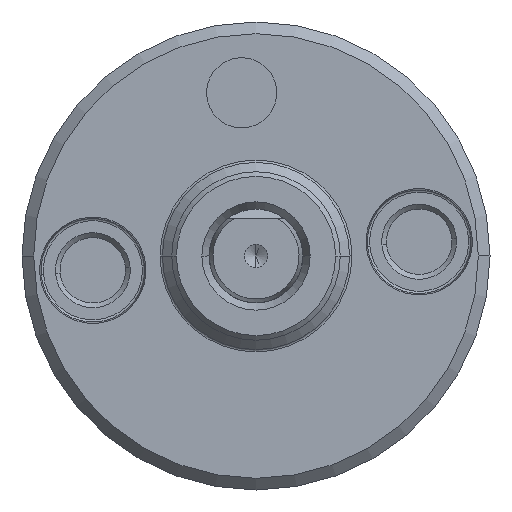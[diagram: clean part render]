
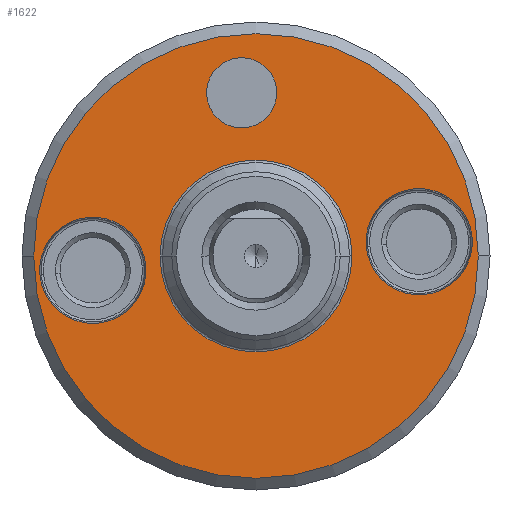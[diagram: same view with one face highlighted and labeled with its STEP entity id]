
A CAD part, left-side view. The second image highlights one B-rep face of the part: STEP entity #1622.
In plain terms, the highlighted planar face has unit normal (-1, 0, 0).
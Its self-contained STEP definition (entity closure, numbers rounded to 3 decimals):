
#109=CARTESIAN_POINT('',(0.,0.,0.));
#110=DIRECTION('',(-1.,0.,0.));
#111=DIRECTION('',(0.,1.,0.));
#112=AXIS2_PLACEMENT_3D('',#109,#110,#111);
#117=CARTESIAN_POINT('',(0.,0.,0.));
#118=DIRECTION('',(-1.,0.,0.));
#119=DIRECTION('',(0.,-1.,0.));
#120=AXIS2_PLACEMENT_3D('',#117,#118,#119);
#125=CARTESIAN_POINT('',(0.,3.487,-0.305));
#126=DIRECTION('',(1.,0.,0.));
#127=DIRECTION('',(0.,0.996,-0.087));
#128=AXIS2_PLACEMENT_3D('',#125,#126,#127);
#133=CARTESIAN_POINT('',(0.,3.487,-0.305));
#134=DIRECTION('',(1.,0.,0.));
#135=DIRECTION('',(0.,-0.996,0.087));
#136=AXIS2_PLACEMENT_3D('',#133,#134,#135);
#141=CARTESIAN_POINT('',(0.,-3.487,0.305));
#142=DIRECTION('',(1.,0.,0.));
#143=DIRECTION('',(0.,-0.996,0.087));
#144=AXIS2_PLACEMENT_3D('',#141,#142,#143);
#149=CARTESIAN_POINT('',(0.,-3.487,0.305));
#150=DIRECTION('',(1.,0.,0.));
#151=DIRECTION('',(0.,0.996,-0.087));
#152=AXIS2_PLACEMENT_3D('',#149,#150,#151);
#157=CARTESIAN_POINT('',(0.,0.305,3.487));
#158=DIRECTION('',(1.,0.,0.));
#159=DIRECTION('',(0.,0.087,0.996));
#160=AXIS2_PLACEMENT_3D('',#157,#158,#159);
#165=CARTESIAN_POINT('',(0.,0.305,3.487));
#166=DIRECTION('',(1.,0.,0.));
#167=DIRECTION('',(0.,-0.087,-0.996));
#168=AXIS2_PLACEMENT_3D('',#165,#166,#167);
#173=CARTESIAN_POINT('',(0.,0.,0.));
#174=DIRECTION('',(1.,0.,0.));
#175=DIRECTION('',(0.,-1.,0.));
#176=AXIS2_PLACEMENT_3D('',#173,#174,#175);
#181=CARTESIAN_POINT('',(0.,0.,0.));
#182=DIRECTION('',(1.,0.,0.));
#183=DIRECTION('',(0.,1.,0.));
#184=AXIS2_PLACEMENT_3D('',#181,#182,#183);
#1349=CARTESIAN_POINT('',(0.,4.75,0.));
#1350=CARTESIAN_POINT('',(0.,-4.75,0.));
#1351=VERTEX_POINT('',#1349);
#1352=VERTEX_POINT('',#1350);
#1361=CARTESIAN_POINT('',(0.,-2.05,0.));
#1362=CARTESIAN_POINT('',(0.,2.05,0.));
#1363=VERTEX_POINT('',#1361);
#1364=VERTEX_POINT('',#1362);
#1377=CARTESIAN_POINT('',(0.,4.618,-0.404));
#1378=CARTESIAN_POINT('',(0.,2.356,-0.206));
#1379=VERTEX_POINT('',#1377);
#1380=VERTEX_POINT('',#1378);
#1385=CARTESIAN_POINT('',(0.,-4.618,0.404));
#1386=CARTESIAN_POINT('',(0.,-2.356,0.206));
#1387=VERTEX_POINT('',#1385);
#1388=VERTEX_POINT('',#1386);
#1393=CARTESIAN_POINT('',(0.,0.37,4.234));
#1394=CARTESIAN_POINT('',(0.,0.24,2.74));
#1395=VERTEX_POINT('',#1393);
#1396=VERTEX_POINT('',#1394);
#1588=CARTESIAN_POINT('',(0.,0.,0.));
#1589=DIRECTION('',(-1.,0.,0.));
#1590=DIRECTION('',(0.,1.,0.));
#1591=AXIS2_PLACEMENT_3D('',#1588,#1589,#1590);
#1592=PLANE('',#1591);
#1593=ORIENTED_EDGE('',*,*,#1578,.F.);
#1595=ORIENTED_EDGE('',*,*,#1594,.F.);
#1596=EDGE_LOOP('',(#1593,#1595));
#1597=FACE_OUTER_BOUND('',#1596,.F.);
#1599=ORIENTED_EDGE('',*,*,#1598,.F.);
#1601=ORIENTED_EDGE('',*,*,#1600,.F.);
#1602=EDGE_LOOP('',(#1599,#1601));
#1603=FACE_BOUND('',#1602,.F.);
#1605=ORIENTED_EDGE('',*,*,#1604,.F.);
#1607=ORIENTED_EDGE('',*,*,#1606,.F.);
#1608=EDGE_LOOP('',(#1605,#1607));
#1609=FACE_BOUND('',#1608,.F.);
#1611=ORIENTED_EDGE('',*,*,#1610,.F.);
#1613=ORIENTED_EDGE('',*,*,#1612,.F.);
#1614=EDGE_LOOP('',(#1611,#1613));
#1615=FACE_BOUND('',#1614,.F.);
#1617=ORIENTED_EDGE('',*,*,#1616,.F.);
#1619=ORIENTED_EDGE('',*,*,#1618,.F.);
#1620=EDGE_LOOP('',(#1617,#1619));
#1621=FACE_BOUND('',#1620,.F.);
#1622=ADVANCED_FACE('',(#1597,#1603,#1609,#1615,#1621),#1592,.T.);
#113=CIRCLE('',#112,4.75);
#121=CIRCLE('',#120,4.75);
#129=CIRCLE('',#128,1.135);
#137=CIRCLE('',#136,1.135);
#145=CIRCLE('',#144,1.135);
#153=CIRCLE('',#152,1.135);
#161=CIRCLE('',#160,0.75);
#169=CIRCLE('',#168,0.75);
#177=CIRCLE('',#176,2.05);
#185=CIRCLE('',#184,2.05);
#1578=EDGE_CURVE('',#1351,#1352,#113,.T.);
#1594=EDGE_CURVE('',#1352,#1351,#121,.T.);
#1598=EDGE_CURVE('',#1379,#1380,#129,.T.);
#1600=EDGE_CURVE('',#1380,#1379,#137,.T.);
#1604=EDGE_CURVE('',#1387,#1388,#145,.T.);
#1606=EDGE_CURVE('',#1388,#1387,#153,.T.);
#1610=EDGE_CURVE('',#1395,#1396,#161,.T.);
#1612=EDGE_CURVE('',#1396,#1395,#169,.T.);
#1616=EDGE_CURVE('',#1363,#1364,#177,.T.);
#1618=EDGE_CURVE('',#1364,#1363,#185,.T.);
